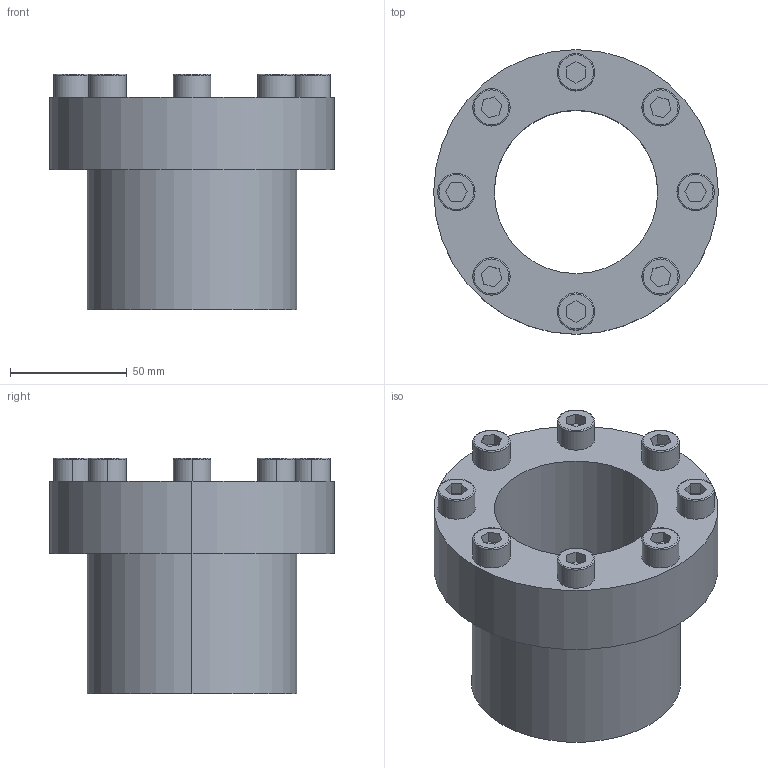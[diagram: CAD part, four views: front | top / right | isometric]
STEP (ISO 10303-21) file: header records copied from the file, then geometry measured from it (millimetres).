
FILE_DESCRIPTION (( 'STEP AP203' ), '1' );
FILE_NAME ('PL-C 70-90.STEP', '2021-10-22T08:46:21', ( '' ), ( '' ), 'SwSTEP 2.0', 'SolidWorks 2018', '' );
FILE_SCHEMA (( 'CONFIG_CONTROL_DESIGN' ));
Length unit declared in the file: millimetre
Products named in the file (1): PL-C 70-90
Bounding box: 122 x 122 x 101 mm (x, y, z)
Volume: 406032.4 mm3; surface area: 69545.7 mm2
Topology: 1 solids, 1 shells, 105 faces, 242 edges, 156 vertices
Faces by surface type: plane 67, cylinder 22, torus 16
Entity records: 3045 total; most frequent: DIRECTION 530, CARTESIAN_POINT 504, ORIENTED_EDGE 484, EDGE_CURVE 242, AXIS2_PLACEMENT_3D 182, LINE 166, VECTOR 166, VERTEX_POINT 156
